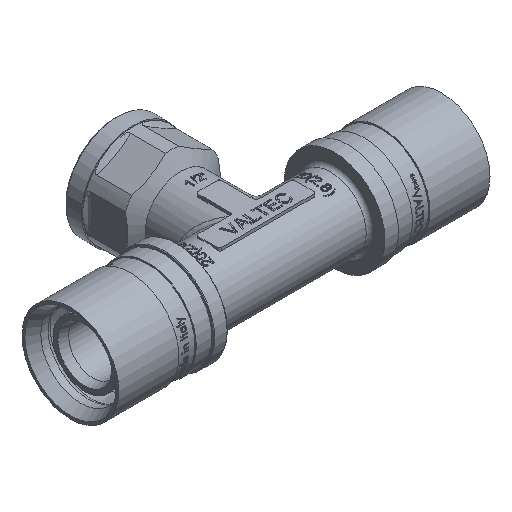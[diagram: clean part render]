
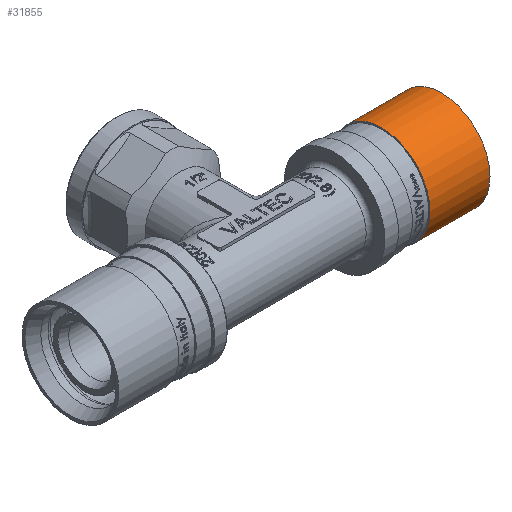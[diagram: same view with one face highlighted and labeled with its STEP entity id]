
A CAD part, isometric view. The second image highlights one B-rep face of the part: STEP entity #31855.
In plain terms, the highlighted cylindrical face has radius 12.5 mm (diameter 25 mm), a full revolution.
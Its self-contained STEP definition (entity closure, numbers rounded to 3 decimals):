
#1904=CYLINDRICAL_SURFACE('',#33475,12.5);
#3087=FACE_OUTER_BOUND('',#4985,.T.);
#4985=EDGE_LOOP('',(#26929,#26930,#26931,#26932,#26933,#26934));
#7935=CIRCLE('',#33473,12.5);
#7936=CIRCLE('',#33474,12.5);
#7937=CIRCLE('',#33476,12.5);
#7938=CIRCLE('',#33477,12.5);
#9848=LINE('',#62564,#12111);
#12111=VECTOR('',#37540,12.5);
#14860=VERTEX_POINT('',#62556);
#14861=VERTEX_POINT('',#62557);
#14862=VERTEX_POINT('',#62561);
#14863=VERTEX_POINT('',#62562);
#19115=EDGE_CURVE('',#14860,#14861,#7935,.T.);
#19116=EDGE_CURVE('',#14861,#14860,#7936,.T.);
#19117=EDGE_CURVE('',#14862,#14863,#7937,.T.);
#19118=EDGE_CURVE('',#14863,#14861,#9848,.T.);
#19119=EDGE_CURVE('',#14863,#14862,#7938,.T.);
#26929=ORIENTED_EDGE('',*,*,#19117,.T.);
#26930=ORIENTED_EDGE('',*,*,#19118,.T.);
#26931=ORIENTED_EDGE('',*,*,#19115,.F.);
#26932=ORIENTED_EDGE('',*,*,#19116,.F.);
#26933=ORIENTED_EDGE('',*,*,#19118,.F.);
#26934=ORIENTED_EDGE('',*,*,#19119,.T.);
#31855=ADVANCED_FACE('',(#3087),#1904,.T.);
#33473=AXIS2_PLACEMENT_3D('',#62558,#37532,#37533);
#33474=AXIS2_PLACEMENT_3D('',#62559,#37534,#37535);
#33475=AXIS2_PLACEMENT_3D('',#62560,#37536,#37537);
#33476=AXIS2_PLACEMENT_3D('',#62563,#37538,#37539);
#33477=AXIS2_PLACEMENT_3D('',#62565,#37541,#37542);
#37532=DIRECTION('center_axis',(1.,0.,0.));
#37533=DIRECTION('ref_axis',(0.,0.,-1.));
#37534=DIRECTION('center_axis',(1.,0.,0.));
#37535=DIRECTION('ref_axis',(0.,0.,-1.));
#37536=DIRECTION('center_axis',(1.,0.,0.));
#37537=DIRECTION('ref_axis',(0.,1.,0.));
#37538=DIRECTION('center_axis',(1.,0.,0.));
#37539=DIRECTION('ref_axis',(0.,0.,-1.));
#37540=DIRECTION('',(1.,0.,0.));
#37541=DIRECTION('center_axis',(1.,0.,0.));
#37542=DIRECTION('ref_axis',(0.,0.,-1.));
#62556=CARTESIAN_POINT('',(47.911,12.5,0.));
#62557=CARTESIAN_POINT('',(47.911,-12.5,0.));
#62558=CARTESIAN_POINT('Origin',(47.911,0.,0.));
#62559=CARTESIAN_POINT('Origin',(47.911,0.,0.));
#62560=CARTESIAN_POINT('Origin',(40.161,0.,0.));
#62561=CARTESIAN_POINT('',(32.411,12.5,0.));
#62562=CARTESIAN_POINT('',(32.411,-12.5,0.));
#62563=CARTESIAN_POINT('Origin',(32.411,0.,0.));
#62564=CARTESIAN_POINT('',(40.161,-12.5,0.));
#62565=CARTESIAN_POINT('Origin',(32.411,0.,0.));
